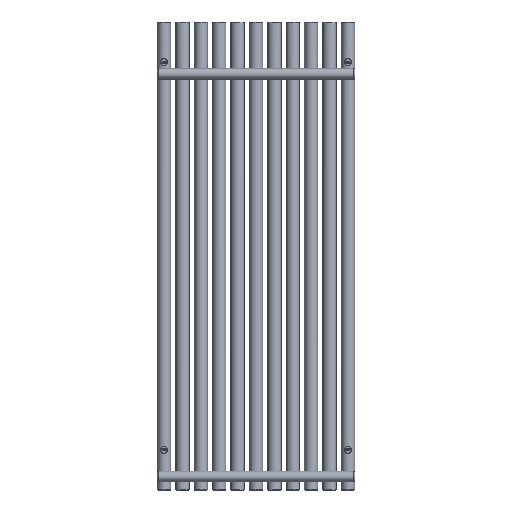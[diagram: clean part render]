
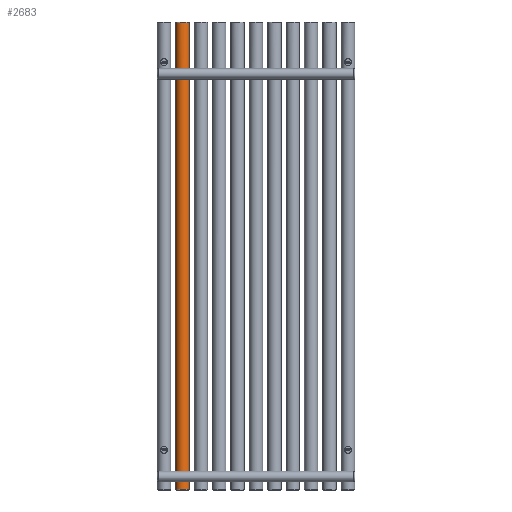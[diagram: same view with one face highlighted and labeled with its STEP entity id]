
A CAD part, front view. The second image highlights one B-rep face of the part: STEP entity #2683.
In plain terms, the highlighted cylindrical face has radius 20 mm (diameter 40 mm), a full revolution.
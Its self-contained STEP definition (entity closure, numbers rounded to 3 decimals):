
#197=FACE_BOUND('',#637,.T.);
#198=FACE_BOUND('',#638,.T.);
#246=LINE('',#4828,#326);
#326=VECTOR('',#3320,20.);
#406=CYLINDRICAL_SURFACE('',#2912,20.);
#445=FACE_OUTER_BOUND('',#636,.T.);
#636=EDGE_LOOP('',(#1873,#1874,#1875,#1876,#1877));
#637=EDGE_LOOP('',(#1878));
#638=EDGE_LOOP('',(#1879));
#870=B_SPLINE_CURVE_WITH_KNOTS('',3,(#4803,#4804,#4805,#4806,#4807,#4808,
#4809,#4810,#4811,#4812,#4813,#4814,#4815,#4816,#4817,#4818,#4819,#4820,
#4821,#4822),.UNSPECIFIED.,.T.,.F.,(4,1,1,1,1,1,1,1,1,1,1,1,1,1,1,1,1,4),
(-5.132,-4.765,-4.399,-3.91,
-3.788,-3.666,-3.421,-3.177,
-2.933,-2.444,-2.199,-1.955,
-1.711,-1.466,-1.1,-0.733,
-0.367,0.),.UNSPECIFIED.);
#871=B_SPLINE_CURVE_WITH_KNOTS('',3,(#4832,#4833,#4834,#4835,#4836,#4837,
#4838,#4839,#4840,#4841,#4842,#4843,#4844,#4845,#4846,#4847,#4848,#4849,
#4850,#4851),.UNSPECIFIED.,.T.,.F.,(4,1,1,1,1,1,1,1,1,1,1,1,1,1,1,1,1,4),
(-5.132,-4.765,-4.399,-3.91,
-3.788,-3.666,-3.421,-3.177,
-2.933,-2.444,-2.199,-1.955,-1.711,
-1.466,-1.1,-0.733,-0.367,
0.),.UNSPECIFIED.);
#943=CIRCLE('',#2913,20.);
#944=CIRCLE('',#2914,20.);
#945=CIRCLE('',#2915,20.);
#1177=VERTEX_POINT('',#4801);
#1178=VERTEX_POINT('',#4824);
#1179=VERTEX_POINT('',#4825);
#1180=VERTEX_POINT('',#4827);
#1181=VERTEX_POINT('',#4831);
#1457=EDGE_CURVE('',#1177,#1177,#870,.T.);
#1458=EDGE_CURVE('',#1178,#1179,#943,.T.);
#1459=EDGE_CURVE('',#1178,#1180,#246,.T.);
#1460=EDGE_CURVE('',#1180,#1180,#944,.T.);
#1461=EDGE_CURVE('',#1179,#1178,#945,.T.);
#1462=EDGE_CURVE('',#1181,#1181,#871,.T.);
#1873=ORIENTED_EDGE('',*,*,#1458,.F.);
#1874=ORIENTED_EDGE('',*,*,#1459,.T.);
#1875=ORIENTED_EDGE('',*,*,#1460,.F.);
#1876=ORIENTED_EDGE('',*,*,#1459,.F.);
#1877=ORIENTED_EDGE('',*,*,#1461,.F.);
#1878=ORIENTED_EDGE('',*,*,#1462,.F.);
#1879=ORIENTED_EDGE('',*,*,#1457,.F.);
#2683=ADVANCED_FACE('',(#445,#197,#198),#406,.T.);
#2912=AXIS2_PLACEMENT_3D('',#4823,#3316,#3317);
#2913=AXIS2_PLACEMENT_3D('',#4826,#3318,#3319);
#2914=AXIS2_PLACEMENT_3D('',#4829,#3321,#3322);
#2915=AXIS2_PLACEMENT_3D('',#4830,#3323,#3324);
#3316=DIRECTION('center_axis',(0.,0.,1.));
#3317=DIRECTION('ref_axis',(-1.,0.,0.));
#3318=DIRECTION('center_axis',(0.,0.,1.));
#3319=DIRECTION('ref_axis',(-1.,0.,0.));
#3320=DIRECTION('',(0.,0.,-1.));
#3321=DIRECTION('center_axis',(0.,0.,-1.));
#3322=DIRECTION('ref_axis',(-1.,0.,0.));
#3323=DIRECTION('center_axis',(0.,0.,1.));
#3324=DIRECTION('ref_axis',(-1.,0.,0.));
#4801=CARTESIAN_POINT('',(-495.,-20.,50.1));
#4803=CARTESIAN_POINT('Ctrl Pts',(-495.,-20.,50.1));
#4804=CARTESIAN_POINT('Ctrl Pts',(-496.611,-20.,50.1));
#4805=CARTESIAN_POINT('Ctrl Pts',(-499.831,-19.609,49.581));
#4806=CARTESIAN_POINT('Ctrl Pts',(-504.316,-17.862,46.748));
#4807=CARTESIAN_POINT('Ctrl Pts',(-506.001,-16.692,42.521));
#4808=CARTESIAN_POINT('Ctrl Pts',(-505.992,-16.709,39.163));
#4809=CARTESIAN_POINT('Ctrl Pts',(-505.668,-16.917,36.969));
#4810=CARTESIAN_POINT('Ctrl Pts',(-504.648,-17.555,34.431));
#4811=CARTESIAN_POINT('Ctrl Pts',(-502.536,-18.589,32.082));
#4812=CARTESIAN_POINT('Ctrl Pts',(-498.836,-19.82,30.087));
#4813=CARTESIAN_POINT('Ctrl Pts',(-494.419,-20.202,29.641));
#4814=CARTESIAN_POINT('Ctrl Pts',(-490.239,-19.503,30.58));
#4815=CARTESIAN_POINT('Ctrl Pts',(-487.466,-18.591,32.084));
#4816=CARTESIAN_POINT('Ctrl Pts',(-485.351,-17.553,34.428));
#4817=CARTESIAN_POINT('Ctrl Pts',(-483.927,-16.66,37.981));
#4818=CARTESIAN_POINT('Ctrl Pts',(-483.921,-16.659,42.599));
#4819=CARTESIAN_POINT('Ctrl Pts',(-486.137,-18.052,47.027));
#4820=CARTESIAN_POINT('Ctrl Pts',(-490.165,-19.6,49.585));
#4821=CARTESIAN_POINT('Ctrl Pts',(-493.389,-20.,50.1));
#4822=CARTESIAN_POINT('Ctrl Pts',(-495.,-20.,50.1));
#4823=CARTESIAN_POINT('Origin',(-495.,0.,0.));
#4824=CARTESIAN_POINT('',(-475.,0.,1398.));
#4825=CARTESIAN_POINT('',(-515.,0.,1398.));
#4826=CARTESIAN_POINT('Origin',(-495.,0.,1398.));
#4827=CARTESIAN_POINT('',(-475.,0.,2.));
#4828=CARTESIAN_POINT('',(-475.,0.,0.));
#4829=CARTESIAN_POINT('Origin',(-495.,0.,2.));
#4830=CARTESIAN_POINT('Origin',(-495.,0.,1398.));
#4831=CARTESIAN_POINT('',(-495.,-20.,1255.1));
#4832=CARTESIAN_POINT('Ctrl Pts',(-495.,-20.,1255.1));
#4833=CARTESIAN_POINT('Ctrl Pts',(-496.611,-20.,1255.1));
#4834=CARTESIAN_POINT('Ctrl Pts',(-499.831,-19.609,1254.581));
#4835=CARTESIAN_POINT('Ctrl Pts',(-504.316,-17.862,1251.749));
#4836=CARTESIAN_POINT('Ctrl Pts',(-506.002,-16.691,1247.521));
#4837=CARTESIAN_POINT('Ctrl Pts',(-505.992,-16.709,1244.164));
#4838=CARTESIAN_POINT('Ctrl Pts',(-505.668,-16.917,1241.97));
#4839=CARTESIAN_POINT('Ctrl Pts',(-504.649,-17.554,1239.432));
#4840=CARTESIAN_POINT('Ctrl Pts',(-502.536,-18.588,1237.083));
#4841=CARTESIAN_POINT('Ctrl Pts',(-498.836,-19.819,1235.088));
#4842=CARTESIAN_POINT('Ctrl Pts',(-494.419,-20.201,1234.641));
#4843=CARTESIAN_POINT('Ctrl Pts',(-490.24,-19.502,1235.581));
#4844=CARTESIAN_POINT('Ctrl Pts',(-487.467,-18.59,1237.084));
#4845=CARTESIAN_POINT('Ctrl Pts',(-485.351,-17.552,1239.428));
#4846=CARTESIAN_POINT('Ctrl Pts',(-483.927,-16.659,1242.981));
#4847=CARTESIAN_POINT('Ctrl Pts',(-483.921,-16.659,1247.599));
#4848=CARTESIAN_POINT('Ctrl Pts',(-486.137,-18.052,1252.028));
#4849=CARTESIAN_POINT('Ctrl Pts',(-490.165,-19.6,1254.585));
#4850=CARTESIAN_POINT('Ctrl Pts',(-493.389,-20.,1255.1));
#4851=CARTESIAN_POINT('Ctrl Pts',(-495.,-20.,1255.1));
